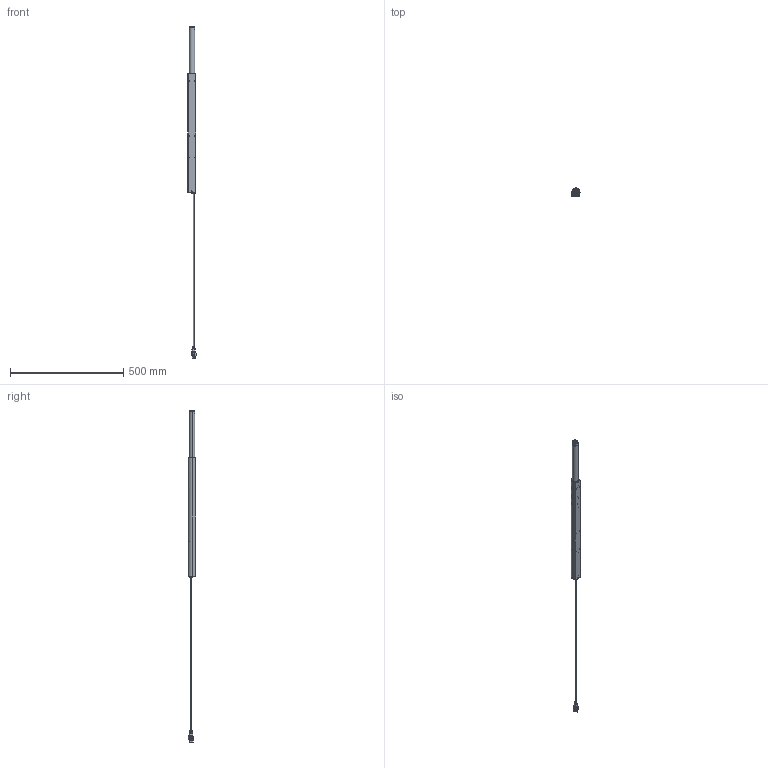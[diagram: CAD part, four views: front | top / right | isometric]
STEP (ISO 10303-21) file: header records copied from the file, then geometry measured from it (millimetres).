
FILE_DESCRIPTION (( 'STEP AP203' ), '1' );
FILE_NAME ('ZB_Actuator-SMS200_(IndexF)_ausgefahren.STEP', '2025-01-14T14:45:05', ( '' ), ( '' ), 'SwSTEP 2.0', 'SolidWorks 2024', '' );
FILE_SCHEMA (( 'CONFIG_CONTROL_DESIGN' ));
Products named in the file (1): ZB_Actuator-SMS200_(IndexF)_ausgefahren
Bounding box: 35.62 x 35 x 1466.8 mm (x, y, z)
Volume: 312418 mm3; surface area: 256349.9 mm2
Topology: 20 solids, 30 shells, 2016 faces, 5266 edges, 3302 vertices
Faces by surface type: plane 907, cylinder 542, bspline 356, torus 86, sphere 67, cone 58
Entity records: 76856 total; most frequent: CARTESIAN_POINT 30973, ORIENTED_EDGE 10394, DIRECTION 8366, EDGE_CURVE 5197, VERTEX_POINT 3299, AXIS2_PLACEMENT_3D 3038, LINE 2290, VECTOR 2290
